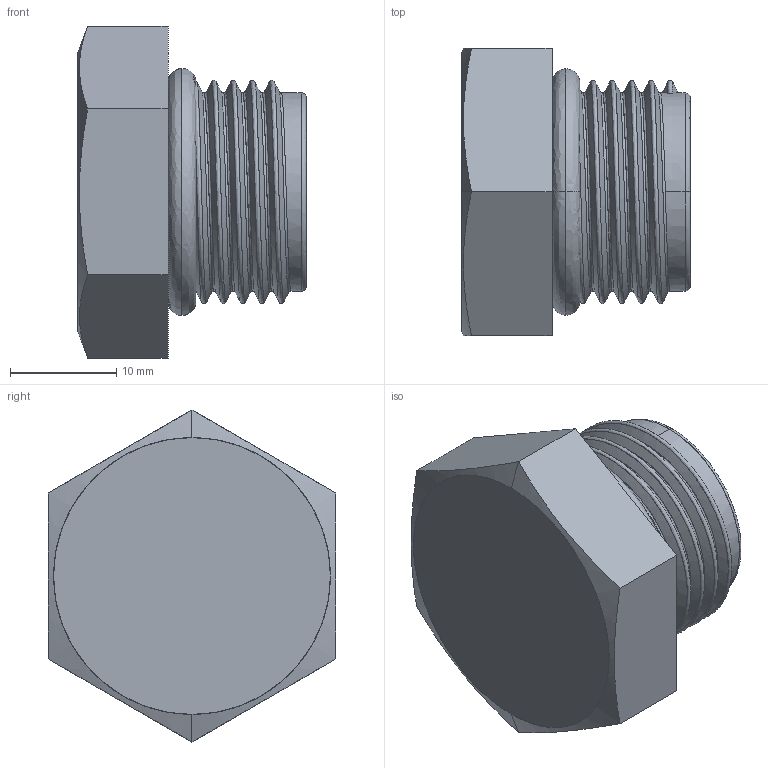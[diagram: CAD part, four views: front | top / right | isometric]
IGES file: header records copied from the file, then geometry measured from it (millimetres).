
Start section: SolidWorks IGES file using analytic representation for surfaces
Global section: file name: C:\Users\federicoz\Desktop\files\00200_0303.IGS; native system: SolidWorks 2011; preprocessor: SolidWorks 2011; author: federicoz; date: 200513.151402; units: millimetre
Bounding box: 21.5 x 27 x 31.18 mm (x, y, z)
Surface area: 4599.8 mm2 (no closed solid volume)
Topology: 0 solids, 0 shells, 52 faces, 998 edges, 996 vertices
Faces by surface type: bspline 35, revolution 17
